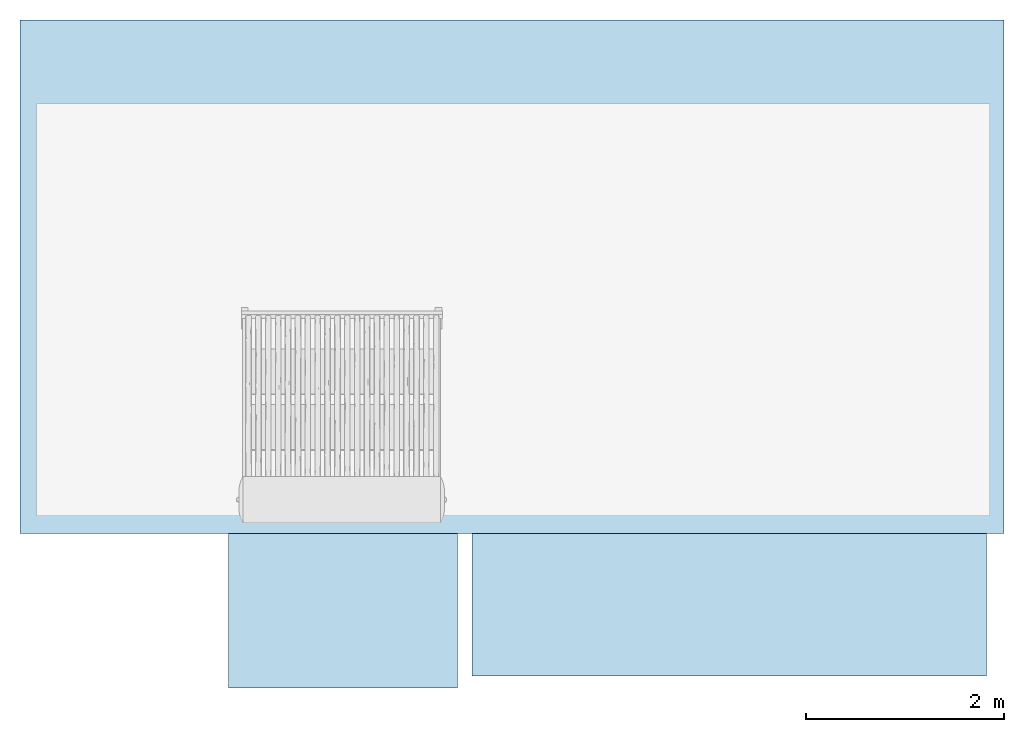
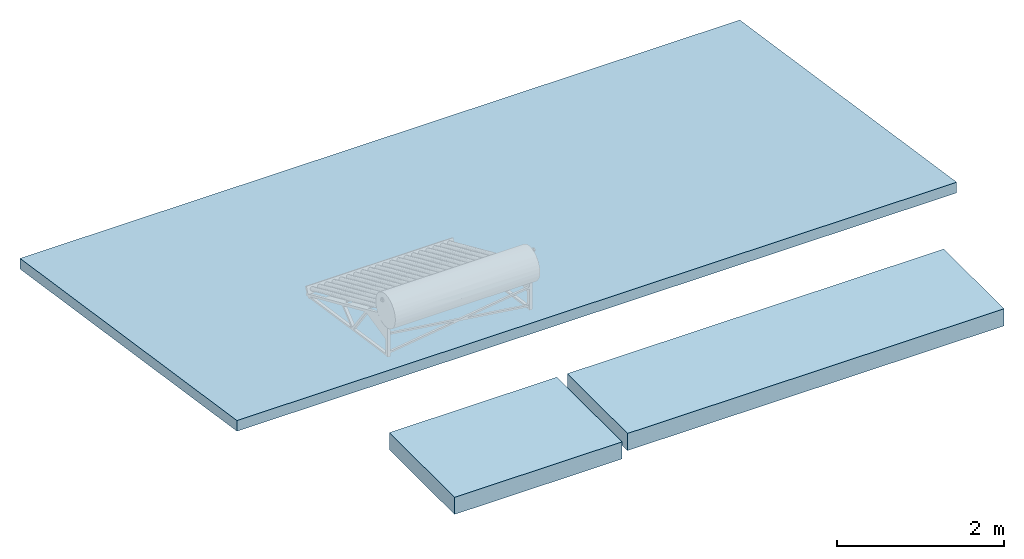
# One storey, part 1 of 2: 3 slabs, 3 elements without a shape of their own.
"""IFC2X3 building model written with IfcOpenShell, lengths in metres."""

from ifc_helpers import new_model, entity, si_unit, converted_unit, derived_unit, direction, frame, frame_2d, origin, place, context, subcontext, project, spatial, rectangle, extrude, material, layer, layer_set, element, aggregate, save


model = new_model("IFC2X3")

# Units and contexts
model_context = context("Model", 3, precision=1e-05, world=origin(), true_north=direction((6.12303176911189e-17, 1.0)))
body_context = subcontext(model_context, "Body", "Model", "MODEL_VIEW")
ifc_project = project(units=[si_unit("LENGTHUNIT", "METRE"), si_unit("AREAUNIT", "SQUARE_METRE"), si_unit("VOLUMEUNIT", "CUBIC_METRE"), converted_unit("PLANEANGLEUNIT", "DEGREE", entity("IfcRatioMeasure", 0.0174532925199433), si_unit("PLANEANGLEUNIT", "RADIAN"), dimensions=[0, 0, 0, 0, 0, 0, 0]), si_unit("MASSUNIT", "GRAM", prefix="KILO"), derived_unit("MASSDENSITYUNIT", [(si_unit("MASSUNIT", "GRAM", prefix="KILO"), 1), (si_unit("LENGTHUNIT", "METRE"), -3)]), si_unit("TIMEUNIT", "SECOND"), si_unit("FREQUENCYUNIT", "HERTZ"), si_unit("THERMODYNAMICTEMPERATUREUNIT", "DEGREE_CELSIUS"), derived_unit("THERMALTRANSMITTANCEUNIT", [(si_unit("MASSUNIT", "GRAM", prefix="KILO"), 1), (si_unit("THERMODYNAMICTEMPERATUREUNIT", "KELVIN"), -1), (si_unit("TIMEUNIT", "SECOND"), -3)]), derived_unit("VOLUMETRICFLOWRATEUNIT", [(si_unit("LENGTHUNIT", "METRE"), 3), (si_unit("TIMEUNIT", "SECOND"), -1)]), si_unit("ELECTRICCURRENTUNIT", "AMPERE"), si_unit("ELECTRICVOLTAGEUNIT", "VOLT"), si_unit("POWERUNIT", "WATT"), si_unit("FORCEUNIT", "NEWTON", prefix="KILO"), si_unit("ILLUMINANCEUNIT", "LUX"), si_unit("LUMINOUSFLUXUNIT", "LUMEN"), si_unit("LUMINOUSINTENSITYUNIT", "CANDELA"), derived_unit("USERDEFINED", [(si_unit("MASSUNIT", "GRAM", prefix="KILO"), -1), (si_unit("LENGTHUNIT", "METRE"), -2), (si_unit("TIMEUNIT", "SECOND"), 3), (si_unit("LUMINOUSFLUXUNIT", "LUMEN"), 1)]), derived_unit("LINEARVELOCITYUNIT", [(si_unit("LENGTHUNIT", "METRE"), 1), (si_unit("TIMEUNIT", "SECOND"), -1)]), si_unit("PRESSUREUNIT", "PASCAL"), derived_unit("USERDEFINED", [(si_unit("LENGTHUNIT", "METRE"), -2), (si_unit("MASSUNIT", "GRAM", prefix="KILO"), 1), (si_unit("TIMEUNIT", "SECOND"), -2)])], contexts=[model_context])

# Site, building, storey
site_placement = place(None, origin())
site = spatial("IfcSite", under=ifc_project, at=site_placement, Name="Surface", CompositionType="ELEMENT")
building_placement = place(site_placement, origin())
building = spatial("IfcBuilding", under=site, at=building_placement, CompositionType="ELEMENT")
storey_placement = place(building_placement, frame((0.0, 0.0, 2.69999999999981)))
storey = spatial("IfcBuildingStorey", under=building, at=storey_placement, Name="Nivel 1", CompositionType="ELEMENT", Elevation=2.69999999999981)

# Roof, slab
roof_1_placement = place(storey_placement, frame((-9.00833547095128, -1.81254870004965, -0.000816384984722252)))
roof_1 = element("IfcRoof", 1, at=roof_1_placement, inside=storey, Name="Basic Roof:PC-SF-100", ObjectType="Basic Roof:PC-SF-100", ShapeType="NOTDEFINED")
ifc_material_1 = material(Name="Chapa sinuzoidal")
ifc_layer_1 = layer(ifc_material_1, 0.004)
ifc_material_2 = material(Name="Perfileria PGC s/cálculo+ Material Aislante")
ifc_layer_2 = layer(ifc_material_2, 0.15)
ifc_layer_set_1 = layer_set([ifc_layer_1, ifc_layer_2], Name="Basic Roof:PC-SF-100")
slab_1_placement = place(roof_1_placement, origin())
slab_1 = element("IfcSlab", 2, at=slab_1_placement, material=ifc_layer_set_1, Name="Basic Roof:PC-SF-100", ObjectType="Basic Roof:PC-SF-100", PredefinedType="ROOF", context=body_context, shape_type="SweptSolid", body=[
    extrude(rectangle(XDim=5.25150153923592, YDim=9.94775000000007, at=frame_2d((0.0, 0.0), x_axis=(0.0, -1.0))), frame((4.97387500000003, 2.59670038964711, 0.389505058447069), z_axis=(0.0, 0.148340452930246, 0.988936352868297), x_axis=(1.0, 0.0, 0.0)), (0.0, -0.148340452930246, 0.988936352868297), 0.155722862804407),
])
aggregate(roof_1, [slab_1])

roof_2_placement = place(storey_placement, frame((-6.90131196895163, -3.37178532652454, -0.230000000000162)))
roof_2 = element("IfcRoof", 3, at=roof_2_placement, inside=storey, Name="Basic Roof:PC-SF-101", ObjectType="Basic Roof:PC-SF-101", ShapeType="NOTDEFINED")
ifc_material_3 = material(Name="Membrana Geotextil")
ifc_layer_3 = layer(ifc_material_3, 0.005)
ifc_material_4 = material(Name="Mortero de pendiente")
ifc_layer_4 = layer(ifc_material_4, 0.05)
ifc_material_5 = material(Name="Poliestireno expandido")
ifc_layer_5 = layer(ifc_material_5, 0.03)
ifc_material_6 = material(Name="Membrana asfáltica")
ifc_layer_6 = layer(ifc_material_6, 0.003)
ifc_material_7 = material(Name="OSB")
ifc_layer_7 = layer(ifc_material_7, 0.012)
ifc_layer_8 = layer(ifc_material_2, 0.15)
ifc_layer_set_2 = layer_set([ifc_layer_3, ifc_layer_4, ifc_layer_5, ifc_layer_6, ifc_layer_7, ifc_layer_8], Name="Basic Roof:PC-SF-101")
slab_2_placement = place(roof_2_placement, origin())
slab_2 = element("IfcSlab", 4, at=slab_2_placement, material=ifc_layer_set_2, Name="Basic Roof:PC-SF-101", ObjectType="Basic Roof:PC-SF-101", PredefinedType="ROOF", context=body_context, shape_type="SweptSolid", body=[
    extrude(rectangle(XDim=1.55973662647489, YDim=2.31499999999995, at=frame_2d((0.0, 2.77555756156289e-16), x_axis=(0.0, 1.0))), frame((1.15749999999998, 0.779868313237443, 0.0)), (0.0, 0.0, 1.0), 0.25),
])
aggregate(roof_2, [slab_2])

roof_3_placement = place(storey_placement, frame((-4.44131196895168, -3.25278532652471, -0.230000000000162)))
roof_3 = element("IfcRoof", 5, at=roof_3_placement, inside=storey, Name="Basic Roof:PC-SF-101", ObjectType="Basic Roof:PC-SF-101", ShapeType="NOTDEFINED")
slab_3_placement = place(roof_3_placement, origin())
slab_3 = element("IfcSlab", 6, at=slab_3_placement, material=ifc_layer_set_2, Name="Basic Roof:PC-SF-101", ObjectType="Basic Roof:PC-SF-101", PredefinedType="ROOF", context=body_context, shape_type="SweptSolid", body=[
    extrude(rectangle(XDim=5.20272649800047, YDim=1.44073662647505, at=frame_2d((4.44089209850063e-16, 2.77555756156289e-16), x_axis=(-1.0, 0.0))), frame((2.60136324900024, 0.720368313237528, 0.0)), (0.0, 0.0, 1.0), 0.25),
])
aggregate(roof_3, [slab_3])

save(model, "model.ifc")
